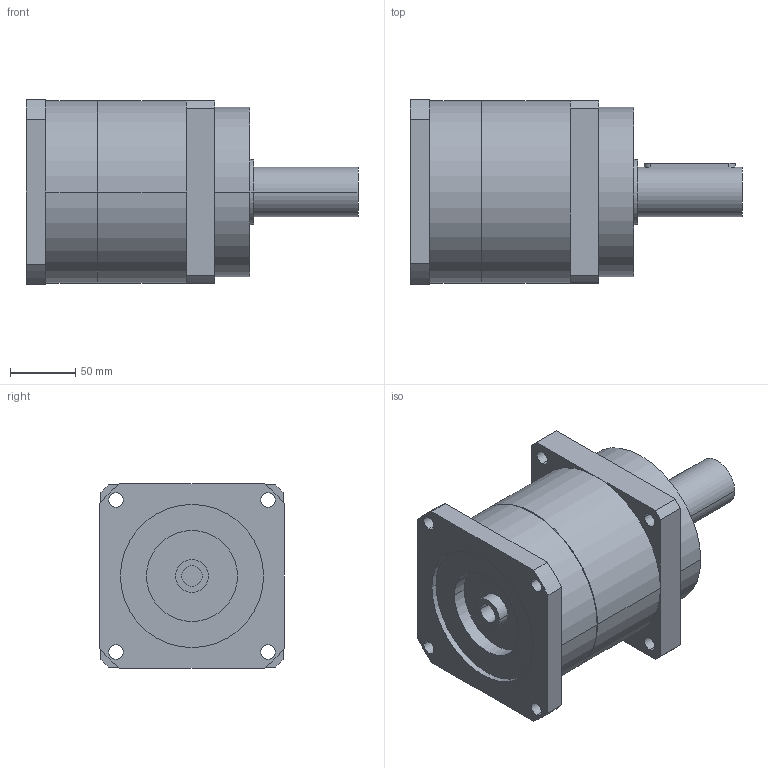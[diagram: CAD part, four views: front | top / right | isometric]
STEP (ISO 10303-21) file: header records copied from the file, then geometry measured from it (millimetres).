
FILE_DESCRIPTION(('CoCreate Modeling STEP Export'),'2;1');
FILE_NAME('GPR150_ig-3-4-5-7_38_B5_15.87_P14.stp','2014-08-19T16:41:39',(''),(''),'CoCreate Modeling STEP processor for AP214 (Solid Model)','CoCreate Modeling 16.00C 25-Feb-2009 (C) Parametric Technology GmbH','');
FILE_SCHEMA(('AUTOMOTIVE_DESIGN { 1 0 10303 214 1 1 1 1 }'));
Length unit declared in the file: millimetre
Products named in the file (2): GPR150_ig-3-4-5-7_38_B5_15.87_P14
Assembly tree (1 placements, depth 2):
  GPR150_ig-3-4-5-7_38_B5_15.87_P14
    GPR150_ig-3-4-5-7_38_B5_15.87_P14
Bounding box: 255 x 142 x 142 mm (x, y, z)
Volume: 2743060.7 mm3; surface area: 147764.5 mm2
Topology: 1 solids, 1 shells, 78 faces, 214 edges, 146 vertices
Faces by surface type: cylinder 46, plane 26, cone 6
Entity records: 2260 total; most frequent: ORIENTED_EDGE 424, CARTESIAN_POINT 421, DIRECTION 320, EDGE_CURVE 212, VERTEX_POINT 146, AXIS2_PLACEMENT_3D 117, EDGE_LOOP 104, VECTOR 86
